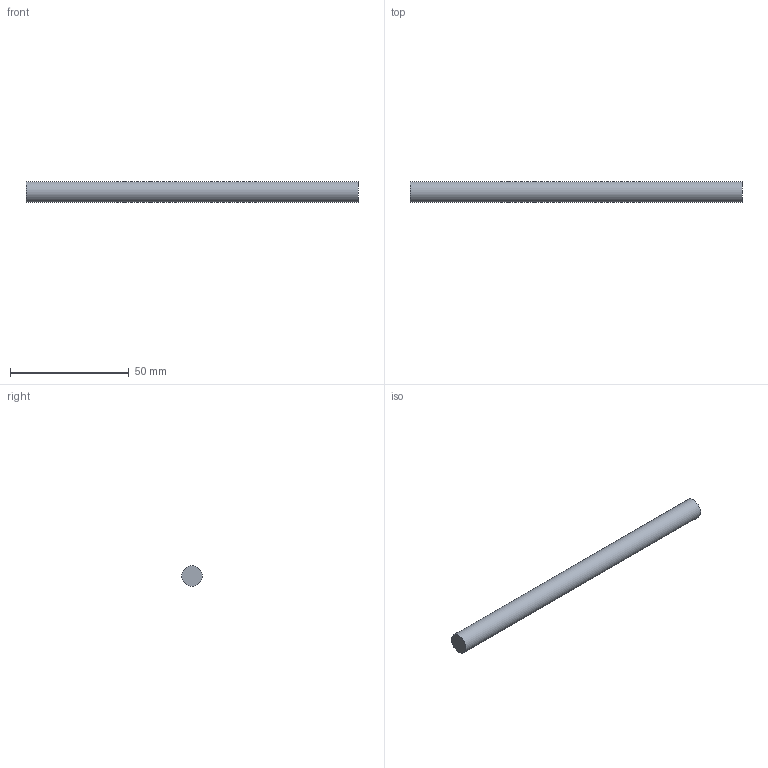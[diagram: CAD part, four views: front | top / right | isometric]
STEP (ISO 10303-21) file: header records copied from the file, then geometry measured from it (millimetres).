
FILE_DESCRIPTION(('FreeCAD Model'),'2;1');
FILE_NAME('Open CASCADE Shape Model','2026-11-20T03:22:07',('FreeCAD'),( 'FreeCAD'),'Open CASCADE STEP processor 7.8','FreeCAD','Unknown');
FILE_SCHEMA(('AUTOMOTIVE_DESIGN { 1 0 10303 214 1 1 1 1 }'));
Length unit declared in the file: millimetre
Products named in the file (1): Open CASCADE STEP translator 7.8 3
Bounding box: 140 x 8.6 x 8.6 mm (x, y, z)
Volume: 8132.3 mm3; surface area: 3898.7 mm2
Topology: 1 solids, 1 shells, 3 faces, 3 edges, 2 vertices
Faces by surface type: plane 2, cylinder 1
Full cylindrical faces by diameter (mm): 8.6 x1
Entity records: 69 total; most frequent: DIRECTION 13, CARTESIAN_POINT 9, AXIS2_PLACEMENT_3D 6, ORIENTED_EDGE 6, ADVANCED_FACE 3, FACE_BOUND 3, EDGE_LOOP 3, EDGE_CURVE 3
